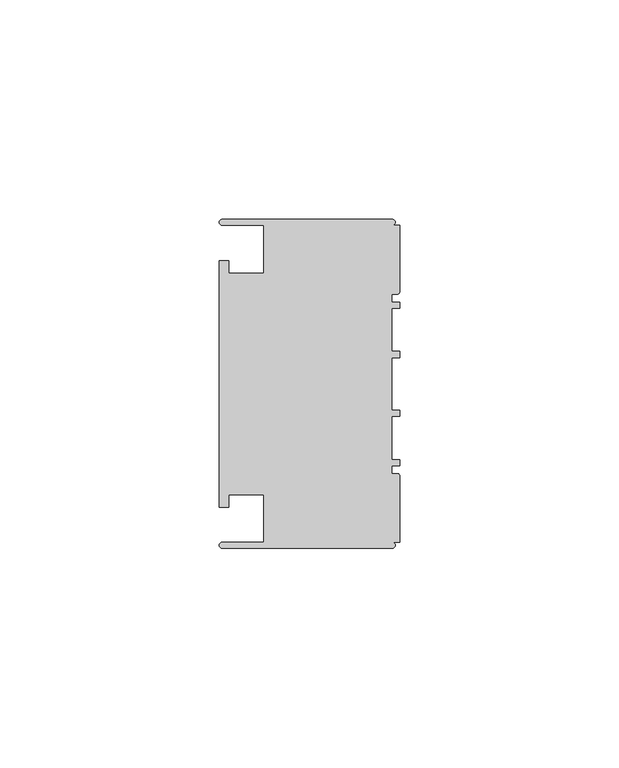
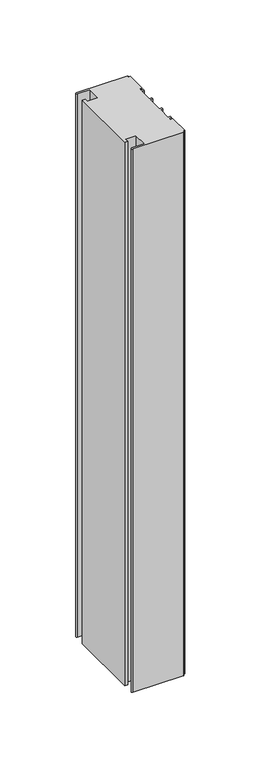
"""IFC4 building model written with IfcOpenShell, lengths in millimetres: member geometry, Прямоугольный импост : 3-AMG-2-Профиль 40Х75 Верх П."""

from ifc_helpers import new_model, si_unit, point, frame, frame_2d, origin, place, context, project, spatial, polyline, circle_curve, trimmed, segment, composite_curve, outline, extrude, source, transform, mapped, element, save


def member_f8c30631(model_context):
    return source(origin(), model_context, "Body", "SweptSolid", [
        extrude(outline(composite_curve([segment(polyline([(37.5, -1.7), (37.5, -40.4)]), True, "CONTINUOUS"), segment(trimmed(circle_curve(frame_2d((36.8, -40.4)), 0.7), [point((37.5, -40.4))], [point((36.1, -40.4))], False, "CARTESIAN"), True, "CONTINUOUS"), segment(polyline([(36.1, -40.4), (36.1, -31.0), (25.25, -31.0), (25.25, -39.0), (28.1, -39.0), (28.1, -41.1), (-28.1, -41.1), (-28.1, -39.0), (-25.25, -39.0), (-25.25, -31.0), (-36.1, -31.0), (-36.1, -40.4)]), True, "CONTINUOUS"), segment(trimmed(circle_curve(frame_2d((-36.8, -40.4)), 0.7), [point((-36.1, -40.4))], [point((-37.5, -40.4))], False, "CARTESIAN"), True, "CONTINUOUS"), segment(polyline([(-37.5, -40.4), (-37.5, -1.7)]), True, "CONTINUOUS"), segment(trimmed(circle_curve(frame_2d((-36.8, -1.7)), 0.7), [point((-37.5, -1.7))], [point((-36.1, -1.7))], False, "CARTESIAN"), True, "CONTINUOUS"), segment(polyline([(-36.1, -1.7), (-36.1, 0.0), (-20.95, 0.0)]), True, "CONTINUOUS"), segment(trimmed(circle_curve(frame_2d((-20.95, -0.5)), 0.5), [point((-20.95, 0.0))], [point((-20.45, -0.5))], False, "CARTESIAN"), True, "CONTINUOUS"), segment(polyline([(-20.45, -0.5), (-20.45, -1.8), (-18.65, -1.8), (-18.65, 0.0), (-17.25, 0.0), (-17.25, -1.8), (-7.4, -1.8), (-7.4, 0.0), (-6.0, 0.0), (-6.0, -1.8), (6.0, -1.8), (6.0, 0.0), (7.4, 0.0), (7.4, -1.8), (17.25, -1.8), (17.25, 0.0), (18.65, 0.0), (18.65, -1.8), (20.45, -1.8), (20.45, -0.5)]), True, "CONTINUOUS"), segment(trimmed(circle_curve(frame_2d((20.95, -0.5)), 0.5), [point((20.45, -0.5))], [point((20.95, 0.0))], False, "CARTESIAN"), True, "CONTINUOUS"), segment(polyline([(20.95, 0.0), (36.1, 0.0), (36.1, -1.7)]), True, "CONTINUOUS"), segment(trimmed(circle_curve(frame_2d((36.8, -1.7)), 0.7), [point((36.1, -1.7))], [point((37.5, -1.7))], False, "CARTESIAN"), True, "CONTINUOUS")], self_intersect=False)), frame((0.0, 0.0, 0.0), z_axis=(0.0, 0.0, -1.0), x_axis=(0.0, 1.0, 0.0)), (0.0, 0.0, 1.0), 440.0),
    ])


if __name__ == "__main__":
    model = new_model("IFC4")
    model_context = context("Model", 3, world=origin())
    ifc_project = project(units=[si_unit("LENGTHUNIT", "METRE", prefix="MILLI")], contexts=[model_context])
    site = spatial("IfcSite", under=ifc_project)
    building = spatial("IfcBuilding", under=site)
    placement = place(None, origin())
    member_shape = member_f8c30631(model_context)
    element("IfcMember", 1, ObjectType="Прямоугольный импост : 3-AMG-2-Профиль 40Х75 Верх П", at=placement, inside=building, context=model_context, shape_type="MappedRepresentation", body=[
        mapped(member_shape, transform((0.0, 0.0, 0.0), x_axis=(1.0, 0.0, 0.0), y_axis=(0.0, 1.0, 0.0), z_axis=(0.0, 0.0, 1.0))),
    ])
    save(model, "model.ifc")
